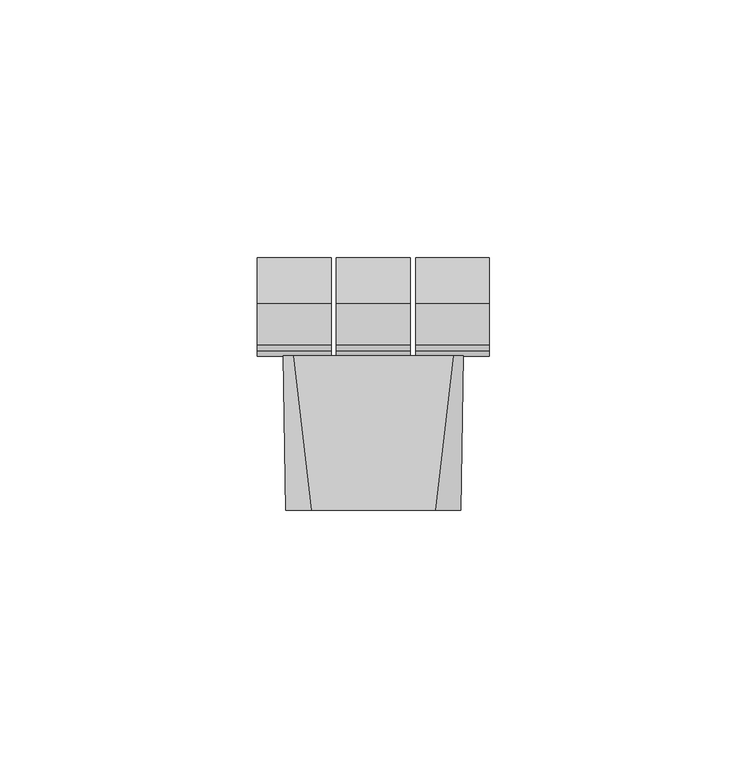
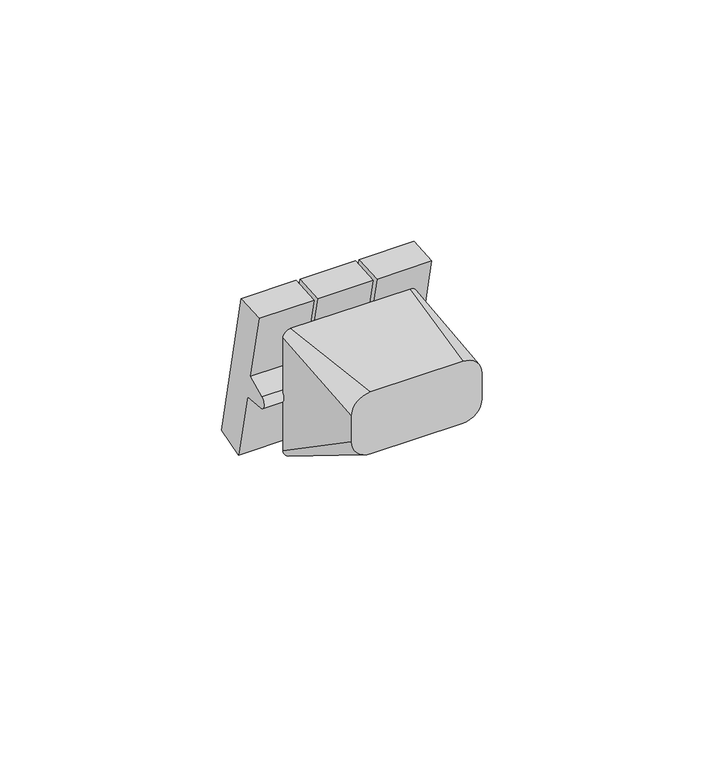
"""IFC4 building model written with IfcOpenShell, lengths in millimetres: proxy geometry, IEK_Skandy_Механизм выключателя : В3_SK-V11B."""

from ifc_helpers import new_model, si_unit, point, frame, frame_2d, origin, place, context, project, spatial, polyline, circle_curve, trimmed, segment, composite_curve, outline, extrude, source, transform, mapped, element, save
from ifc_brep_helpers import plane_surface, spline_surface, advanced_brep


def electrical_fixtures_23d46810(model_context):
    return source(origin(), model_context, "Body", "SolidModel", [
        extrude(outline(composite_curve([segment(polyline([(19.1247035, -19.6237652), (11.4236286, -21.8320129), (7.3756597, -3.3748404), (1.5972872, -2.8692983)]), True, "CONTINUOUS"), segment(trimmed(circle_curve(frame_2d((1.7530049, -1.0894363)), 1.7866608), [point((1.5972872, -2.8692983))], [point((0.9979294, 0.5298284))], False, "CARTESIAN"), True, "CONTINUOUS"), segment(polyline([(0.9979294, 0.5298284), (6.2549179, 2.9812023), (2.206949, 21.4383748), (10.1988574, 21.9972235), (19.1247035, -19.6237652)]), True, "CONTINUOUS")], self_intersect=False)), frame((-22.5, 0.0, 0.0), z_axis=(1.0, 0.0, 0.0), x_axis=(0.0, 1.0, 0.0)), (0.0, 0.0, 1.0), 14.3),
        extrude(outline(composite_curve([segment(polyline([(19.1247035, -19.6237652), (11.4236286, -21.8320129), (7.3756597, -3.3748404), (1.5972872, -2.8692983)]), True, "CONTINUOUS"), segment(trimmed(circle_curve(frame_2d((1.7530049, -1.0894363)), 1.7866608), [point((1.5972872, -2.8692983))], [point((0.9979294, 0.5298284))], False, "CARTESIAN"), True, "CONTINUOUS"), segment(polyline([(0.9979294, 0.5298284), (6.2549179, 2.9812023), (2.206949, 21.4383748), (10.1988574, 21.9972235), (19.1247035, -19.6237652)]), True, "CONTINUOUS")], self_intersect=False)), frame((8.2, 0.0, 0.0), z_axis=(1.0, 0.0, 0.0), x_axis=(0.0, 1.0, 0.0)), (0.0, 0.0, 1.0), 14.3),
        extrude(outline(composite_curve([segment(polyline([(19.1247035, -19.6237652), (11.4236286, -21.8320129), (7.3756597, -3.3748404), (1.5972872, -2.8692983)]), True, "CONTINUOUS"), segment(trimmed(circle_curve(frame_2d((1.7530049, -1.0894363)), 1.7866608), [point((1.5972872, -2.8692983))], [point((0.9979294, 0.5298284))], False, "CARTESIAN"), True, "CONTINUOUS"), segment(polyline([(0.9979294, 0.5298284), (6.2549179, 2.9812023), (2.206949, 21.4383748), (10.1988574, 21.9972235), (19.1247035, -19.6237652)]), True, "CONTINUOUS")], self_intersect=False)), frame((-7.2, 0.0, 0.0), z_axis=(1.0, 0.0, 0.0), x_axis=(0.0, 1.0, 0.0)), (0.0, 0.0, 1.0), 14.4),
        advanced_brep(
        [(-12.0, -30.0, 17.0), (-17.0, -30.0, 12.0), (-17.0, -30.0, 5.0), (-12.0, -30.0, 0.0), (12.0, -30.0, 0.0), (17.0, -30.0, 5.0), (17.0, -30.0, 12.0), (12.0, -30.0, 17.0), (-15.5, 0.0, 17.5), (15.5, 0.0, 17.5), (17.5, 0.0, 15.5), (17.5, 0.0, -15.5), (15.5, 0.0, -17.5), (-15.5, 0.0, -17.5), (-17.5, 0.0, -15.5), (-17.5, 0.0, 15.5)],
        [
            (0, 1, circle_curve(frame((-12.0, -30.0, 12.0), z_axis=(0.0, -1.0, 0.0), x_axis=(1.0, 0.0, 0.0)), 5.0)),
            (1, 2),
            (2, 3, circle_curve(frame((-12.0, -30.0, 5.0), z_axis=(0.0, -1.0, 0.0), x_axis=(1.0, 0.0, 0.0)), 5.0)),
            (3, 4),
            (4, 5, circle_curve(frame((12.0, -30.0, 5.0), z_axis=(0.0, -1.0, 0.0), x_axis=(1.0, 0.0, 0.0)), 5.0)),
            (5, 6),
            (6, 7, circle_curve(frame((12.0, -30.0, 12.0), z_axis=(0.0, -1.0, 0.0), x_axis=(1.0, 0.0, 0.0)), 5.0)),
            (7, 0),
            (8, 9),
            (9, 10, circle_curve(frame((15.5, 0.0, 15.5), z_axis=(0.0, 1.0, 0.0), x_axis=(1.0, 0.0, 0.0)), 2.0)),
            (10, 11),
            (11, 12, circle_curve(frame((15.5, 0.0, -15.5), z_axis=(0.0, 1.0, 0.0), x_axis=(1.0, 0.0, 0.0)), 2.0)),
            (12, 13),
            (13, 14, circle_curve(frame((-15.5, 0.0, -15.5), z_axis=(0.0, 1.0, 0.0), x_axis=(1.0, 0.0, 0.0)), 2.0)),
            (14, 15),
            (15, 8, circle_curve(frame((-15.5, 0.0, 15.5), z_axis=(0.0, 1.0, 0.0), x_axis=(1.0, 0.0, 0.0)), 2.0)),
            (8, 0),
            (7, 9),
            (6, 10),
            (5, 11),
            (4, 12),
            (3, 13),
            (2, 14),
            (1, 15),
        ],
        [
            plane_surface(frame((0.0, -30.0, 8.5), z_axis=(0.0, -1.0, 0.0), x_axis=(-1.0, 0.0, 0.0))),
            plane_surface(frame((0.0, 0.0, 0.0), z_axis=(0.0, 1.0, 0.0), x_axis=(-1.0, 0.0, 0.0))),
            plane_surface(frame((0.0, 0.0, 17.5), z_axis=(0.0, -0.016664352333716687, 0.9998611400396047), x_axis=(-1.0, 0.0, 0.0))),
            spline_surface(2, 1, [[(17.5, 0.0, 15.5), (17.0, -30.0, 12.0)], [(17.5, 0.0, 17.5), (17.0, -30.0, 17.0)], [(15.5, 0.0, 17.5), (12.0, -30.0, 17.0)]], [3, 3], [2, 2], [0.0, 1.0], [0.0, 1.0], weights=[[1.0, 1.0], [0.7071067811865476, 0.7071067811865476], [1.0, 1.0]]),
            plane_surface(frame((17.5, 0.0, 0.0), z_axis=(0.9998611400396, -0.016664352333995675, 0.0), x_axis=(0.0, 0.0, 1.0))),
            spline_surface(2, 1, [[(15.5, 0.0, -17.5), (12.0, -30.0, 0.0)], [(17.5, 0.0, -17.5), (17.0, -30.0, 0.0)], [(17.5, 0.0, -15.5), (17.0, -30.0, 5.0)]], [3, 3], [2, 2], [0.0, 1.0], [0.0, 1.0], weights=[[1.0, 1.0], [0.7071067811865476, 0.7071067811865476], [1.0, 1.0]]),
            plane_surface(frame((0.0, 0.0, -17.5), z_axis=(0.0, -0.5038710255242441, -0.8637789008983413), x_axis=(1.0, 0.0, 0.0))),
            spline_surface(2, 1, [[(-17.5, 0.0, -15.5), (-17.0, -30.0, 5.0)], [(-17.5, 0.0, -17.5), (-17.0, -30.0, 0.0)], [(-15.5, 0.0, -17.5), (-12.0, -30.0, 0.0)]], [3, 3], [2, 2], [0.0, 1.0], [0.0, 1.0], weights=[[1.0, 1.0], [0.7071067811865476, 0.7071067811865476], [1.0, 1.0]]),
            plane_surface(frame((-17.5, 0.0, 0.0), z_axis=(-0.9998611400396, -0.01666435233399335, 0.0), x_axis=(0.0, 0.0, -1.0))),
            spline_surface(2, 1, [[(-15.5, 0.0, 17.5), (-12.0, -30.0, 17.0)], [(-17.5, 0.0, 17.5), (-17.0, -30.0, 17.0)], [(-17.5, 0.0, 15.5), (-17.0, -30.0, 12.0)]], [3, 3], [2, 2], [0.0, 1.0], [0.0, 1.0], weights=[[1.0, 1.0], [0.7071067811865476, 0.7071067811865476], [1.0, 1.0]]),
        ],
        [
            (0, [[1, 2, 3, 4, 5, 6, 7, 8]]),
            (1, [[9, 10, 11, 12, 13, 14, 15, 16]]),
            (2, [[-9, 17, -8, 18]]),
            (3, [[-10, -18, -7, 19]]),
            (4, [[-11, -19, -6, 20]]),
            (5, [[-12, -20, -5, 21]]),
            (6, [[-13, -21, -4, 22]]),
            (7, [[-14, -22, -3, 23]]),
            (8, [[-15, -23, -2, 24]]),
            (9, [[-16, -24, -1, -17]]),
        ],
    ),
    ])


if __name__ == "__main__":
    model = new_model("IFC4")
    model_context = context("Model", 3, world=origin())
    ifc_project = project(units=[si_unit("LENGTHUNIT", "METRE", prefix="MILLI")], contexts=[model_context])
    site = spatial("IfcSite", under=ifc_project)
    building = spatial("IfcBuilding", under=site)
    placement = place(None, origin())
    electrical_fixtures_shape = electrical_fixtures_23d46810(model_context)
    element("IfcBuildingElementProxy", 1, Name="IEK_Skandy_Механизм выключателя : В3_SK-V11B", ObjectType="IEK_Skandy_Механизм выключателя : В3_SK-V11B", at=placement, inside=building, context=model_context, shape_type="MappedRepresentation", body=[
        mapped(electrical_fixtures_shape, transform((0.0, 0.0, 0.0), x_axis=(1.0, 0.0, 0.0), y_axis=(0.0, 1.0, 0.0), z_axis=(0.0, 0.0, 1.0))),
    ])
    save(model, "model.ifc")
